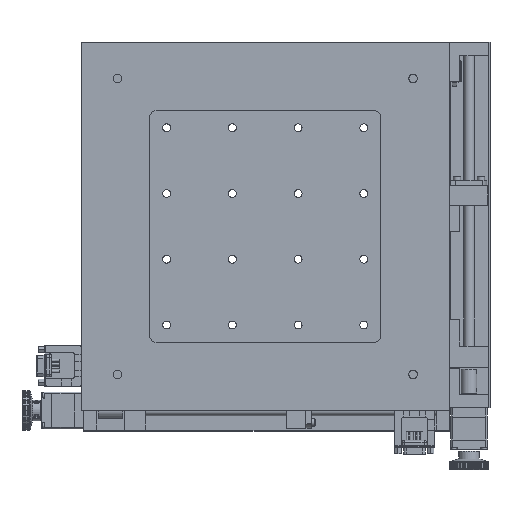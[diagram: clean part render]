
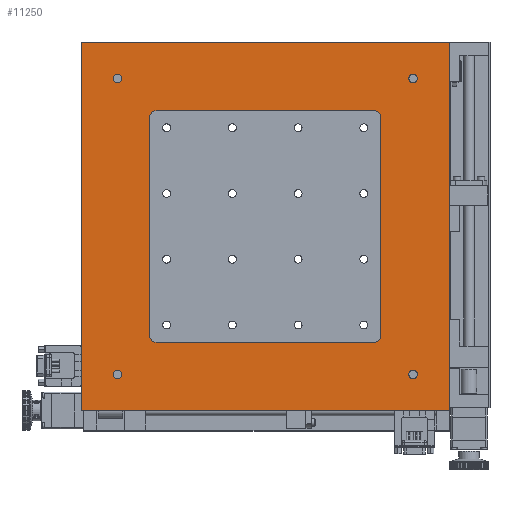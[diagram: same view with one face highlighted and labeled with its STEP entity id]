
A CAD part, front view. The second image highlights one B-rep face of the part: STEP entity #11250.
In plain terms, the highlighted planar face has unit normal (0, -1, 0).
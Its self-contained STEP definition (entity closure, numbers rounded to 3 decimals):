
#1633 = VERTEX_POINT ( 'NONE', #24438 ) ;
#1634 = VERTEX_POINT ( 'NONE', #24439 ) ;
#1636 = VERTEX_POINT ( 'NONE', #24441 ) ;
#1638 = VERTEX_POINT ( 'NONE', #24443 ) ;
#1639 = VERTEX_POINT ( 'NONE', #24444 ) ;
#1640 = VERTEX_POINT ( 'NONE', #24445 ) ;
#1641 = VERTEX_POINT ( 'NONE', #24446 ) ;
#1642 = VERTEX_POINT ( 'NONE', #24447 ) ;
#1643 = VERTEX_POINT ( 'NONE', #24448 ) ;
#1644 = VERTEX_POINT ( 'NONE', #24449 ) ;
#1647 = VERTEX_POINT ( 'NONE', #24452 ) ;
#1651 = VERTEX_POINT ( 'NONE', #24456 ) ;
#11250 = ADVANCED_FACE ( 'NONE', ( #44887, #44890, #44885, #44886, #44888, #44891 ), #43270, .F. ) ;
#15998 = ORIENTED_EDGE ( 'NONE', *, *, #27079, .T. ) ;
#16000 = ORIENTED_EDGE ( 'NONE', *, *, #27077, .T. ) ;
#16002 = ORIENTED_EDGE ( 'NONE', *, *, #27075, .T. ) ;
#16004 = ORIENTED_EDGE ( 'NONE', *, *, #27073, .T. ) ;
#16006 = ORIENTED_EDGE ( 'NONE', *, *, #27071, .F. ) ;
#16008 = ORIENTED_EDGE ( 'NONE', *, *, #27055, .F. ) ;
#16009 = ORIENTED_EDGE ( 'NONE', *, *, #27059, .F. ) ;
#16011 = ORIENTED_EDGE ( 'NONE', *, *, #27052, .F. ) ;
#16013 = ORIENTED_EDGE ( 'NONE', *, *, #27049, .F. ) ;
#16015 = ORIENTED_EDGE ( 'NONE', *, *, #27046, .F. ) ;
#16017 = ORIENTED_EDGE ( 'NONE', *, *, #27042, .F. ) ;
#16019 = ORIENTED_EDGE ( 'NONE', *, *, #27081, .F. ) ;
#16021 = ORIENTED_EDGE ( 'NONE', *, *, #27041, .T. ) ;
#16023 = ORIENTED_EDGE ( 'NONE', *, *, #27032, .F. ) ;
#16024 = ORIENTED_EDGE ( 'NONE', *, *, #27034, .F. ) ;
#16026 = ORIENTED_EDGE ( 'NONE', *, *, #27037, .T. ) ;
#22946 = EDGE_LOOP ( 'NONE', ( #16004 ) ) ;
#22963 = EDGE_LOOP ( 'NONE', ( #16002 ) ) ;
#22970 = EDGE_LOOP ( 'NONE', ( #16021, #16023, #16024, #16026 ) ) ;
#23002 = EDGE_LOOP ( 'NONE', ( #16006, #16008, #16009, #16011, #16013, #16015, #16017, #16019 ) ) ;
#23014 = EDGE_LOOP ( 'NONE', ( #15998 ) ) ;
#23019 = EDGE_LOOP ( 'NONE', ( #16000 ) ) ;
#24438 = CARTESIAN_POINT ( 'NONE',  ( 105.797, -27.717, -140. ) ) ;
#24439 = CARTESIAN_POINT ( 'NONE',  ( -174.203, -27.717, 140. ) ) ;
#24441 = CARTESIAN_POINT ( 'NONE',  ( -174.203, -27.717, -140. ) ) ;
#24443 = CARTESIAN_POINT ( 'NONE',  ( -122.203, -27.717, 83. ) ) ;
#24444 = CARTESIAN_POINT ( 'NONE',  ( 105.797, -27.717, 140. ) ) ;
#24445 = CARTESIAN_POINT ( 'NONE',  ( 48.797, -27.717, -88. ) ) ;
#24446 = CARTESIAN_POINT ( 'NONE',  ( 53.797, -27.717, -83. ) ) ;
#24447 = CARTESIAN_POINT ( 'NONE',  ( -117.203, -27.717, -88. ) ) ;
#24448 = CARTESIAN_POINT ( 'NONE',  ( 48.797, -27.717, 88. ) ) ;
#24449 = CARTESIAN_POINT ( 'NONE',  ( 53.797, -27.717, 83. ) ) ;
#24452 = CARTESIAN_POINT ( 'NONE',  ( -117.203, -27.717, 88. ) ) ;
#24456 = CARTESIAN_POINT ( 'NONE',  ( -122.203, -27.717, -83. ) ) ;
#27032 = EDGE_CURVE ( 'NONE', #1639, #1633, #50668, .T. ) ;
#27034 = EDGE_CURVE ( 'NONE', #1634, #1639, #50671, .T. ) ;
#27037 = EDGE_CURVE ( 'NONE', #1634, #1636, #50677, .T. ) ;
#27041 = EDGE_CURVE ( 'NONE', #1636, #1633, #50682, .T. ) ;
#27042 = EDGE_CURVE ( 'NONE', #1642, #1640, #50686, .T. ) ;
#27046 = EDGE_CURVE ( 'NONE', #1640, #1641, #50687, .T. ) ;
#27049 = EDGE_CURVE ( 'NONE', #1641, #1644, #50698, .T. ) ;
#27052 = EDGE_CURVE ( 'NONE', #1644, #1643, #50703, .T. ) ;
#27055 = EDGE_CURVE ( 'NONE', #1647, #1638, #50708, .T. ) ;
#27059 = EDGE_CURVE ( 'NONE', #1643, #1647, #50709, .T. ) ;
#27071 = EDGE_CURVE ( 'NONE', #1638, #1651, #50730, .T. ) ;
#27073 = EDGE_CURVE ( 'NONE', #42094, #42094, #50732, .T. ) ;
#27075 = EDGE_CURVE ( 'NONE', #42096, #42096, #50737, .T. ) ;
#27077 = EDGE_CURVE ( 'NONE', #42098, #42098, #50739, .T. ) ;
#27079 = EDGE_CURVE ( 'NONE', #42100, #42100, #50741, .T. ) ;
#27081 = EDGE_CURVE ( 'NONE', #1651, #1642, #50743, .T. ) ;
#31358 = AXIS2_PLACEMENT_3D ( 'NONE', #51685, #51686, #51687 ) ;
#31363 = AXIS2_PLACEMENT_3D ( 'NONE', #51698, #51699, #51700 ) ;
#31368 = AXIS2_PLACEMENT_3D ( 'NONE', #51707, #51708, #51709 ) ;
#31393 = AXIS2_PLACEMENT_3D ( 'NONE', #51750, #51751, #51752 ) ;
#31398 = AXIS2_PLACEMENT_3D ( 'NONE', #51756, #51757, #51758 ) ;
#31403 = AXIS2_PLACEMENT_3D ( 'NONE', #51762, #51763, #51764 ) ;
#31407 = AXIS2_PLACEMENT_3D ( 'NONE', #51770, #51771, #51772 ) ;
#31412 = AXIS2_PLACEMENT_3D ( 'NONE', #51778, #51779, #51780 ) ;
#40849 = AXIS2_PLACEMENT_3D ( 'NONE', #43274, #43258, #43278 ) ;
#42094 = VERTEX_POINT ( 'NONE', #44577 ) ;
#42096 = VERTEX_POINT ( 'NONE', #44580 ) ;
#42098 = VERTEX_POINT ( 'NONE', #44584 ) ;
#42100 = VERTEX_POINT ( 'NONE', #44588 ) ;
#43258 = DIRECTION ( 'NONE',  ( 0., 1., 0. ) ) ;
#43270 = PLANE ( 'NONE',  #40849 ) ;
#43274 = CARTESIAN_POINT ( 'NONE',  ( -174.203, -27.717, 140. ) ) ;
#43278 = DIRECTION ( 'NONE',  ( 0., 0., 1. ) ) ;
#44577 = CARTESIAN_POINT ( 'NONE',  ( -146.703, -27.717, 115.75 ) ) ;
#44580 = CARTESIAN_POINT ( 'NONE',  ( 78.297, -27.717, 115.75 ) ) ;
#44584 = CARTESIAN_POINT ( 'NONE',  ( 78.297, -27.717, -109.25 ) ) ;
#44588 = CARTESIAN_POINT ( 'NONE',  ( -146.703, -27.717, -109.25 ) ) ;
#44885 = FACE_BOUND ( 'NONE', #22963, .T. ) ;
#44886 = FACE_BOUND ( 'NONE', #22946, .T. ) ;
#44887 = FACE_BOUND ( 'NONE', #23014, .T. ) ;
#44888 = FACE_BOUND ( 'NONE', #23002, .T. ) ;
#44890 = FACE_BOUND ( 'NONE', #23019, .T. ) ;
#44891 = FACE_OUTER_BOUND ( 'NONE', #22970, .T. ) ;
#50668 = LINE ( 'NONE', #51651, #50670 ) ;
#50670 = VECTOR ( 'NONE', #51652, 1000. ) ;
#50671 = LINE ( 'NONE', #51655, #50674 ) ;
#50674 = VECTOR ( 'NONE', #51656, 1000. ) ;
#50677 = LINE ( 'NONE', #51661, #50680 ) ;
#50680 = VECTOR ( 'NONE', #51663, 1000. ) ;
#50682 = LINE ( 'NONE', #51664, #50684 ) ;
#50684 = VECTOR ( 'NONE', #51673, 1000. ) ;
#50686 = LINE ( 'NONE', #51674, #50688 ) ;
#50687 = CIRCLE ( 'NONE', #31358, 5. ) ;
#50688 = VECTOR ( 'NONE', #51675, 1000. ) ;
#50698 = LINE ( 'NONE', #51682, #50700 ) ;
#50700 = VECTOR ( 'NONE', #51683, 1000. ) ;
#50703 = CIRCLE ( 'NONE', #31363, 5. ) ;
#50708 = CIRCLE ( 'NONE', #31368, 5. ) ;
#50709 = LINE ( 'NONE', #51710, #50716 ) ;
#50716 = VECTOR ( 'NONE', #51714, 1000. ) ;
#50730 = LINE ( 'NONE', #51740, #50731 ) ;
#50731 = VECTOR ( 'NONE', #51736, 1000. ) ;
#50732 = CIRCLE ( 'NONE', #31393, 3.25 ) ;
#50737 = CIRCLE ( 'NONE', #31398, 3.25 ) ;
#50739 = CIRCLE ( 'NONE', #31403, 3.25 ) ;
#50741 = CIRCLE ( 'NONE', #31407, 3.25 ) ;
#50743 = CIRCLE ( 'NONE', #31412, 5. ) ;
#51651 = CARTESIAN_POINT ( 'NONE',  ( 105.797, -27.717, 140. ) ) ;
#51652 = DIRECTION ( 'NONE',  ( 0., 0., -1. ) ) ;
#51655 = CARTESIAN_POINT ( 'NONE',  ( -174.203, -27.717, 140. ) ) ;
#51656 = DIRECTION ( 'NONE',  ( 1., 0., 0. ) ) ;
#51661 = CARTESIAN_POINT ( 'NONE',  ( -174.203, -27.717, 140. ) ) ;
#51663 = DIRECTION ( 'NONE',  ( 0., 0., -1. ) ) ;
#51664 = CARTESIAN_POINT ( 'NONE',  ( -174.203, -27.717, -140. ) ) ;
#51673 = DIRECTION ( 'NONE',  ( 1., 0., 0. ) ) ;
#51674 = CARTESIAN_POINT ( 'NONE',  ( 48.797, -27.717, -88. ) ) ;
#51675 = DIRECTION ( 'NONE',  ( 1., 0., 0. ) ) ;
#51682 = CARTESIAN_POINT ( 'NONE',  ( 53.797, -27.717, 83. ) ) ;
#51683 = DIRECTION ( 'NONE',  ( 0., 0., 1. ) ) ;
#51685 = CARTESIAN_POINT ( 'NONE',  ( 48.797, -27.717, -83. ) ) ;
#51686 = DIRECTION ( 'NONE',  ( 0., -1., 0. ) ) ;
#51687 = DIRECTION ( 'NONE',  ( 0., 0., 1. ) ) ;
#51698 = CARTESIAN_POINT ( 'NONE',  ( 48.797, -27.717, 83. ) ) ;
#51699 = DIRECTION ( 'NONE',  ( 0., -1., 0. ) ) ;
#51700 = DIRECTION ( 'NONE',  ( 0., 0., 1. ) ) ;
#51707 = CARTESIAN_POINT ( 'NONE',  ( -117.203, -27.717, 83. ) ) ;
#51708 = DIRECTION ( 'NONE',  ( 0., -1., 0. ) ) ;
#51709 = DIRECTION ( 'NONE',  ( 0., 0., 1. ) ) ;
#51710 = CARTESIAN_POINT ( 'NONE',  ( 48.797, -27.717, 88. ) ) ;
#51714 = DIRECTION ( 'NONE',  ( -1., 0., 0. ) ) ;
#51736 = DIRECTION ( 'NONE',  ( 0., 0., -1. ) ) ;
#51740 = CARTESIAN_POINT ( 'NONE',  ( -122.203, -27.717, 83. ) ) ;
#51750 = CARTESIAN_POINT ( 'NONE',  ( -146.703, -27.717, 112.5 ) ) ;
#51751 = DIRECTION ( 'NONE',  ( 0., 1., 0. ) ) ;
#51752 = DIRECTION ( 'NONE',  ( 0., 0., 1. ) ) ;
#51756 = CARTESIAN_POINT ( 'NONE',  ( 78.297, -27.717, 112.5 ) ) ;
#51757 = DIRECTION ( 'NONE',  ( 0., 1., 0. ) ) ;
#51758 = DIRECTION ( 'NONE',  ( 0., 0., 1. ) ) ;
#51762 = CARTESIAN_POINT ( 'NONE',  ( 78.297, -27.717, -112.5 ) ) ;
#51763 = DIRECTION ( 'NONE',  ( 0., 1., 0. ) ) ;
#51764 = DIRECTION ( 'NONE',  ( 0., 0., 1. ) ) ;
#51770 = CARTESIAN_POINT ( 'NONE',  ( -146.703, -27.717, -112.5 ) ) ;
#51771 = DIRECTION ( 'NONE',  ( 0., 1., 0. ) ) ;
#51772 = DIRECTION ( 'NONE',  ( 0., 0., 1. ) ) ;
#51778 = CARTESIAN_POINT ( 'NONE',  ( -117.203, -27.717, -83. ) ) ;
#51779 = DIRECTION ( 'NONE',  ( 0., -1., 0. ) ) ;
#51780 = DIRECTION ( 'NONE',  ( 0., 0., 1. ) ) ;
